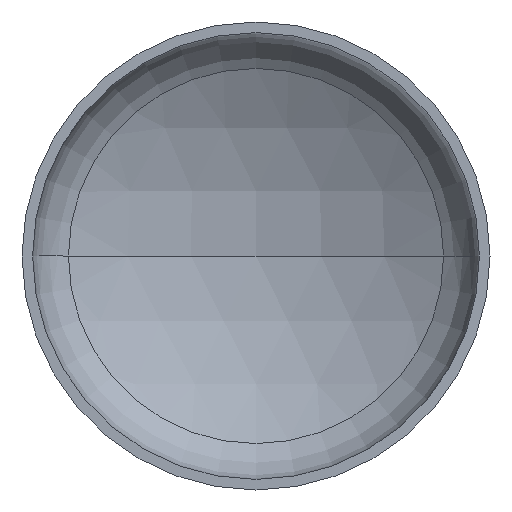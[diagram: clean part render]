
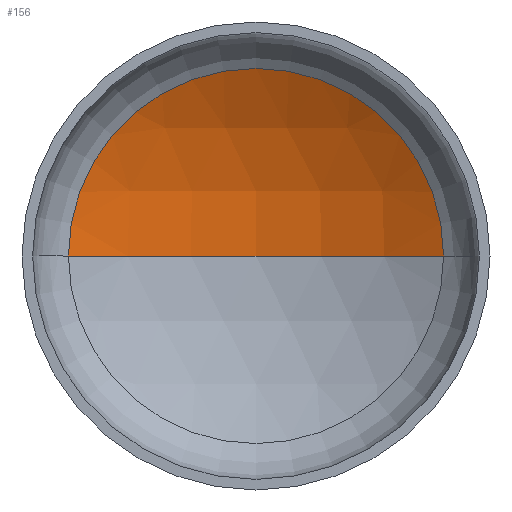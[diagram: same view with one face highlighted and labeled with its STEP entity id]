
A CAD part, front view. The second image highlights one B-rep face of the part: STEP entity #156.
In plain terms, the highlighted spherical face has radius 1200 mm.
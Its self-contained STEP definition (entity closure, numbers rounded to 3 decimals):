
#1 = CARTESIAN_POINT ( 'NONE',  ( 0., 309.049, 0. ) ) ;
#7 = CARTESIAN_POINT ( 'NONE',  ( 0., -729.466, 0. ) ) ;
#10 = AXIS2_PLACEMENT_3D ( 'NONE', #52, #171, #286 ) ;
#19 = EDGE_LOOP ( 'NONE', ( #96, #49, #174 ) ) ;
#35 = VERTEX_POINT ( 'NONE', #257 ) ;
#40 = AXIS2_PLACEMENT_3D ( 'NONE', #210, #398, #223 ) ;
#48 = AXIS2_PLACEMENT_3D ( 'NONE', #7, #61, #287 ) ;
#49 = ORIENTED_EDGE ( 'NONE', *, *, #113, .T. ) ;
#52 = CARTESIAN_POINT ( 'NONE',  ( 0., -729.466, 0. ) ) ;
#53 = AXIS2_PLACEMENT_3D ( 'NONE', #1, #396, #168 ) ;
#61 = DIRECTION ( 'NONE',  ( 0., 0., -1. ) ) ;
#96 = ORIENTED_EDGE ( 'NONE', *, *, #361, .F. ) ;
#111 = EDGE_CURVE ( 'NONE', #152, #35, #342, .T. ) ;
#113 = EDGE_CURVE ( 'NONE', #115, #152, #389, .T. ) ;
#115 = VERTEX_POINT ( 'NONE', #326 ) ;
#152 = VERTEX_POINT ( 'NONE', #243 ) ;
#156 = ADVANCED_FACE ( 'NONE', ( #209 ), #333, .F. ) ;
#168 = DIRECTION ( 'NONE',  ( 1., 0., 0. ) ) ;
#171 = DIRECTION ( 'NONE',  ( 0., 0., 1. ) ) ;
#174 = ORIENTED_EDGE ( 'NONE', *, *, #111, .T. ) ;
#209 = FACE_OUTER_BOUND ( 'NONE', #19, .T. ) ;
#210 = CARTESIAN_POINT ( 'NONE',  ( 0., -729.466, 0. ) ) ;
#223 = DIRECTION ( 'NONE',  ( -1., 0., 0. ) ) ;
#243 = CARTESIAN_POINT ( 'NONE',  ( 601.237, 309.049, 0. ) ) ;
#257 = CARTESIAN_POINT ( 'NONE',  ( -601.237, 309.049, 0. ) ) ;
#286 = DIRECTION ( 'NONE',  ( 1., 0., 0. ) ) ;
#287 = DIRECTION ( 'NONE',  ( -1., 0., 0. ) ) ;
#326 = CARTESIAN_POINT ( 'NONE',  ( 0., 470.534, 0. ) ) ;
#333 = SPHERICAL_SURFACE ( 'NONE', #40, 1200. ) ;
#342 = CIRCLE ( 'NONE', #53, 601.237 ) ;
#361 = EDGE_CURVE ( 'NONE', #115, #35, #370, .T. ) ;
#370 = CIRCLE ( 'NONE', #10, 1200. ) ;
#389 = CIRCLE ( 'NONE', #48, 1200. ) ;
#396 = DIRECTION ( 'NONE',  ( 0., -1., 0. ) ) ;
#398 = DIRECTION ( 'NONE',  ( 0., 0., -1. ) ) ;
